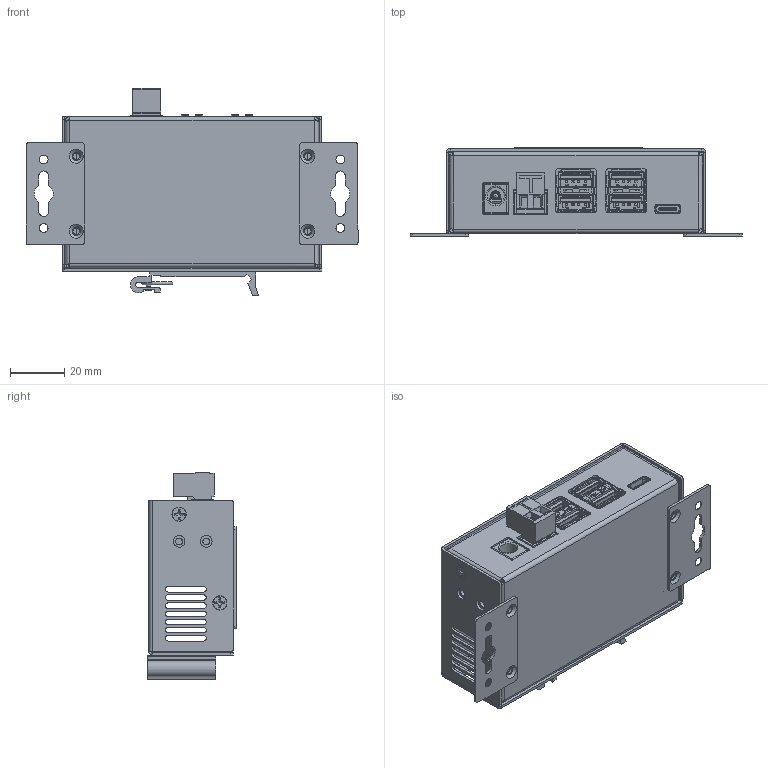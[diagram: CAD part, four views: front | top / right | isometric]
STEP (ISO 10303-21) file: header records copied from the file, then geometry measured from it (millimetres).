
FILE_DESCRIPTION(/* description */ (''),/* implementation_level */ '2;1');
FILE_NAME(/* name */ 'C:/Users/Leo/Desktop/CG-UC4AQC3 Model3d LPV1.step',/* time_stamp */ '2021-03-29T16:47:50-04:00',/* author */ (''),/* organization */ (''),/* preprocessor_version */ 'ST-DEVELOPER v18.1',/* originating_system */ 'Autodesk Translation Framework v9.10.0.1330',/* authorisation */ '');
FILE_SCHEMA (('AUTOMOTIVE_DESIGN { 1 0 10303 214 3 1 1 }'));
Products named in the file (7): (Unsaved); CG-UC4AQC3 v2; Mounting plate; Phoenix connector EDZ950/XX TERMINAL BLOCK PLUGGABLE PLUG v6; Clip of 25 v3; Component2 (1); Component32
Assembly tree (7 placements, depth 3):
  (Unsaved)
    CG-UC4AQC3 v2
      Mounting plate  x2
    Phoenix connector EDZ950/XX TERMINAL BLOCK PLUGGABLE PLUG v6
    Clip of 25 v3
      Component2 (1)
    Component32
Bounding box: 122 x 32.5 x 76.19 mm (x, y, z)
Volume: 39154.1 mm3; surface area: 74944.6 mm2
Topology: 7 solids, 107 shells, 5725 faces, 16065 edges, 10419 vertices
Faces by surface type: plane 4143, cylinder 1369, bspline 130, cone 63, torus 10, sphere 10
Full cylindrical faces by diameter (mm): 1 x3, 1.5 x1, 1.6 x2, 1.749 x1, 2.25 x1, 2.323 x12, 2.5 x12, 2.529 x4, 3 x12, 3.2 x3, 3.688 x1, 3.86 x2, 4.25 x4, 5.25 x2, 5.45 x4, 6.25 x1, 6.35 x4
Entity records: 193694 total; most frequent: CARTESIAN_POINT 44411, ORIENTED_EDGE 31990, DIRECTION 29726, EDGE_CURVE 15995, LINE 12626, VECTOR 12626, VERTEX_POINT 10379, AXIS2_PLACEMENT_3D 8550
